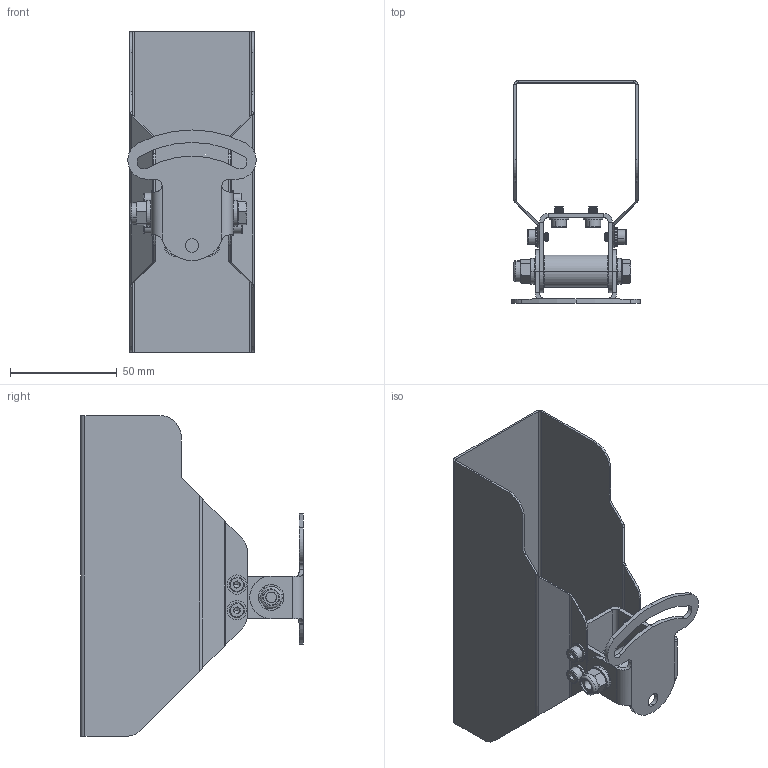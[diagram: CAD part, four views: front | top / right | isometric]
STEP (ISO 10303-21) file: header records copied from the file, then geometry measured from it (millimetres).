
FILE_DESCRIPTION (( 'STEP AP214' ), '1' );
FILE_NAME ('9P029 Montagefuß.STEP', '2024-07-05T15:06:41', ( '' ), ( '' ), 'SwSTEP 2.0', 'SolidWorks 2023', '' );
FILE_SCHEMA (( 'AUTOMOTIVE_DESIGN' ));
Length unit declared in the file: millimetre
Products named in the file (1): 9P029 Montagefuß
Bounding box: 59.95 x 104.02 x 150 mm (x, y, z)
Volume: 44372.5 mm3; surface area: 72844 mm2
Topology: 26 solids, 26 shells, 809 faces, 1935 edges, 1180 vertices
Faces by surface type: cone 278, cylinder 273, plane 218, torus 26, bspline 14
Entity records: 33176 total; most frequent: CARTESIAN_POINT 4595, DIRECTION 4445, ORIENTED_EDGE 3846, EDGE_CURVE 1923, AXIS2_PLACEMENT_3D 1800, VERTEX_POINT 1180, CIRCLE 1004, EDGE_LOOP 887
